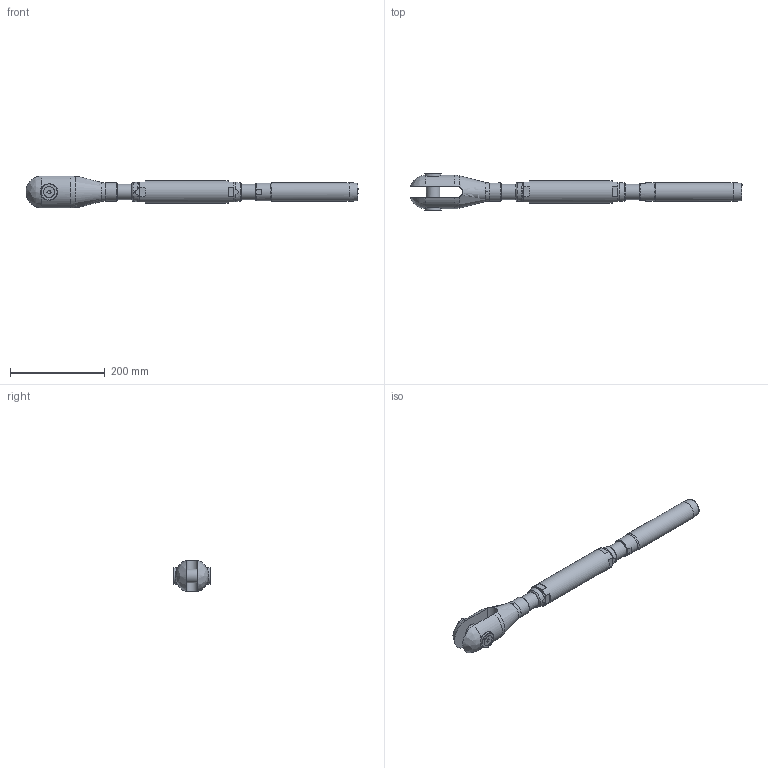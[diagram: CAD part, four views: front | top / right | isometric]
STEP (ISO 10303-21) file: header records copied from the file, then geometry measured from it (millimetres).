
FILE_DESCRIPTION(/* description */ (''),/* implementation_level */ '2;1');
FILE_NAME(/* name */ 'TBC 20_1,4462',/* time_stamp */ '2023-05-23T18:17:08+02:00',/* author */ (''),/* organization */ (''),/* preprocessor_version */ 'ST-DEVELOPER v16.5',/* originating_system */ 'Rhino 7.22',/* authorisation */ '');
FILE_SCHEMA (('CONFIG_CONTROL_DESIGN'));
Length unit declared in the file: millimetre
Products named in the file (1): Document
Bounding box: 702.36 x 79.37 x 66.82 mm (x, y, z)
Volume: 1034417.9 mm3; surface area: 181105.9 mm2
Topology: 10 solids, 10 shells, 141 faces, 384 edges, 265 vertices
Faces by surface type: plane 65, bspline 41, cylinder 35
Full cylindrical faces by diameter (mm): 10.106 x2, 12 x2, 12.5 x2, 23.12 x2, 29 x1, 29.211 x4, 31 x2, 33 x2, 35 x2, 38 x1, 38.1 x2, 40 x1, 47 x1
Entity records: 5934 total; most frequent: CARTESIAN_POINT 3498, ORIENTED_EDGE 760, EDGE_CURVE 380, VERTEX_POINT 265, EDGE_LOOP 161, B_SPLINE_CURVE_WITH_KNOTS 158, ADVANCED_FACE 141, FACE_OUTER_BOUND 141
